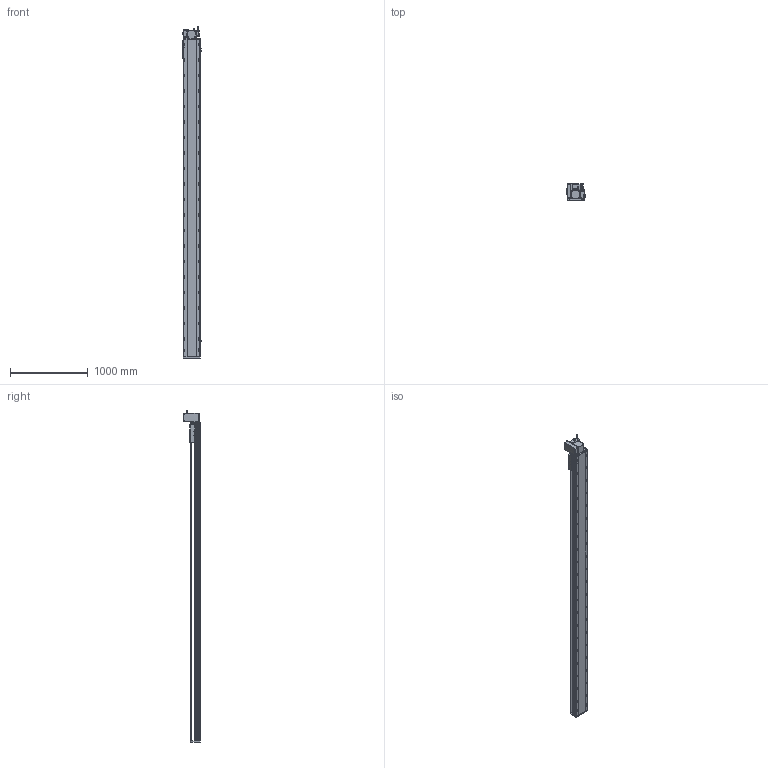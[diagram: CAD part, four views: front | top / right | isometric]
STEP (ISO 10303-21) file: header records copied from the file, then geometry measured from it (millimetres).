
FILE_DESCRIPTION (( 'STEP AP214' ), '1' );
FILE_NAME ('RTB22S-XX-3750-LW-M75-C4.STEP', '2025-12-12T07:09:44', ( '' ), ( '' ), 'SwSTEP 2.0', 'SolidWorks 2018', '' );
FILE_SCHEMA (( 'AUTOMOTIVE_DESIGN' ));
Length unit declared in the file: millimetre
Products named in the file (14): RTB22S-GY-007奻裔^RTB22S-XX-XX-LW-M75-C4; RTB22S-GY-017P^RTB22S-LW-々湍釱蚾饜_RTB22S-XX-XX-LW-M75-C4; RTB22S-GY-005P^RTB22S-LW-々湍釱蚾饜_RTB22S-XX-XX-LW-M75-C4; RTB22S-L-004賑釱^RTB22S-XX-XX-LW-M75-C4; OMRON EE-SX672 传感器^RTB22S-XX-XX-LW-M75-C4; RTB22S-GY-008-M75--萇儂啣^RTB22S-LW-々湍釱蚾饜_RTB22S-XX-XX-LW-M75-C4; RTB22S-LW-々湍釱蚾饜^RTB22S-XX-XX-LW-M75-C4; 750W萇儂^RTB22S-XX-XX-LW-M75-C4; RTB22S-XX-3750-LW-M75-C4; RTB22S-GY-018P^RTB22S-LW-々湍釱蚾饜_RTB22S-XX-XX-LW-M75-C4; RTB22S-GY-014--々湍釱^RTB22S-LW-々湍釱蚾饜_RTB22S-XX-XX-LW-M75-C4; RTH22-GY-013外置感应片^RTB22S-XX-XX-LW-M75-C4; RTB22S-L-011菁釱^RTB22S-XX-XX-LW-M75-C4; RTB22S-GY-001耜裔^RTB22S-XX-XX-LW-M75-C4
Assembly tree (16 placements, depth 3):
  RTB22S-XX-3750-LW-M75-C4
    RTB22S-L-011菁釱^RTB22S-XX-XX-LW-M75-C4
    RTB22S-GY-001耜裔^RTB22S-XX-XX-LW-M75-C4
    750W萇儂^RTB22S-XX-XX-LW-M75-C4
    RTB22S-GY-007奻裔^RTB22S-XX-XX-LW-M75-C4
    RTB22S-L-004賑釱^RTB22S-XX-XX-LW-M75-C4
    RTH22-GY-013外置感应片^RTB22S-XX-XX-LW-M75-C4
    OMRON EE-SX672 传感器^RTB22S-XX-XX-LW-M75-C4  x3
    RTB22S-LW-々湍釱蚾饜^RTB22S-XX-XX-LW-M75-C4
      RTB22S-GY-014--々湍釱^RTB22S-LW-々湍釱蚾饜_RTB22S-XX-XX-LW-M75-C4
      RTB22S-GY-017P^RTB22S-LW-々湍釱蚾饜_RTB22S-XX-XX-LW-M75-C4  x2
      RTB22S-GY-005P^RTB22S-LW-々湍釱蚾饜_RTB22S-XX-XX-LW-M75-C4
      RTB22S-GY-008-M75--萇儂啣^RTB22S-LW-々湍釱蚾饜_RTB22S-XX-XX-LW-M75-C4
      RTB22S-GY-018P^RTB22S-LW-々湍釱蚾饜_RTB22S-XX-XX-LW-M75-C4
Bounding box: 238.5 x 215.5 x 4282.2 mm (x, y, z)
Volume: 53327537.2 mm3; surface area: 5419799.2 mm2
Topology: 15 solids, 15 shells, 2217 faces, 6036 edges, 3842 vertices
Faces by surface type: plane 941, cylinder 778, bspline 296, cone 190, sphere 8, torus 4
Entity records: 61322 total; most frequent: CARTESIAN_POINT 17096, ORIENTED_EDGE 8756, DIRECTION 8652, EDGE_CURVE 4378, AXIS2_PLACEMENT_3D 3138, VERTEX_POINT 2846, LINE 2376, VECTOR 2376
